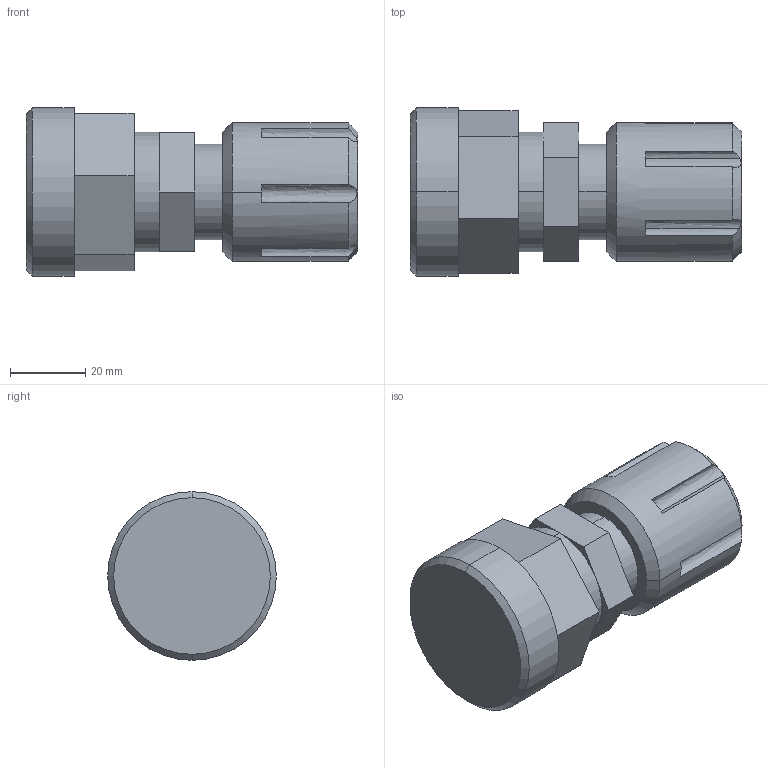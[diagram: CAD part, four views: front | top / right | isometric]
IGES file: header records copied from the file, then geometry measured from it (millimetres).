
Start section: SolidWorks IGES file using analytic representation for surfaces
Global section: file name: S:\Product Visuals\REVISED-60L-TOP-MOUNT-FITTINGS\flaretek\16-flaretek-with-top-mount-adapter.IGS; native system: SolidWorks 2012; preprocessor: SolidWorks 2012; author: rachel.dressel; date: 121127.105249; units: inch
Bounding box: 87.86 x 44.7 x 44.7 mm (x, y, z)
Volume: 90185.7 mm3; surface area: 15227.3 mm2
Topology: 1 solids, 1 shells, 55 faces, 132 edges, 84 vertices
Faces by surface type: plane 31, revolution 24
